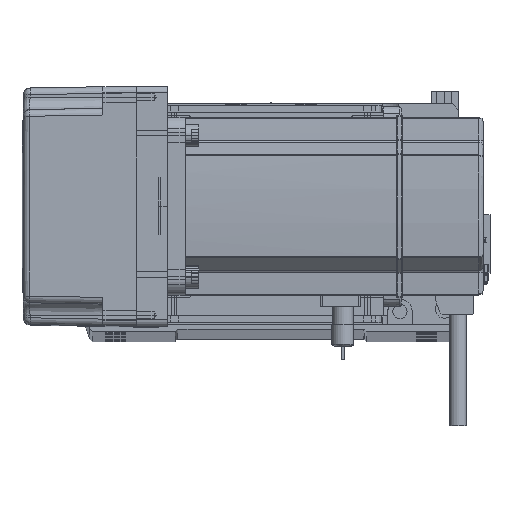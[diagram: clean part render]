
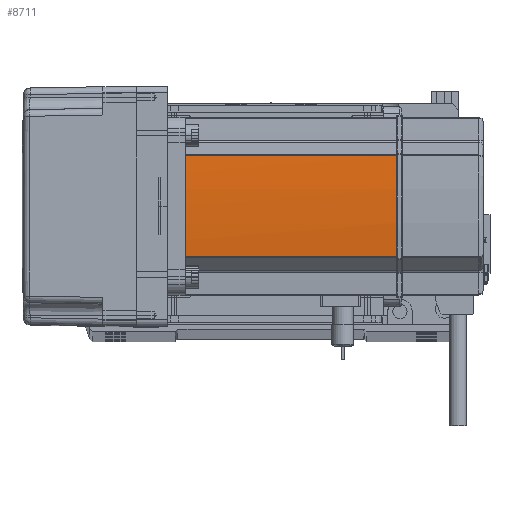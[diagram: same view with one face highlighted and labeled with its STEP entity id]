
A CAD part, top view. The second image highlights one B-rep face of the part: STEP entity #8711.
In plain terms, the highlighted cylindrical face has radius 270 mm (diameter 540 mm), a partial arc.
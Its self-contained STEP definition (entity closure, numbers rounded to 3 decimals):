
#567 = EDGE_CURVE ( 'NONE', #49985, #45974, #53830, .T. ) ;
#912 = EDGE_CURVE ( 'NONE', #49985, #52769, #51973, .T. ) ;
#4537 = CARTESIAN_POINT ( 'NONE',  ( 40., -0.042, 134. ) ) ;
#4609 = CARTESIAN_POINT ( 'NONE',  ( 39.042, 22.724, 134. ) ) ;
#6778 = LINE ( 'NONE', #58888, #54931 ) ;
#6780 = ORIENTED_EDGE ( 'NONE', *, *, #912, .F. ) ;
#7158 = DIRECTION ( 'NONE',  ( -1., 0., 0. ) ) ;
#8711 = ADVANCED_FACE ( 'NONE', ( #59301 ), #29687, .T. ) ;
#9315 = AXIS2_PLACEMENT_3D ( 'NONE', #60848, #21944, #61696 ) ;
#9437 = DIRECTION ( 'NONE',  ( 0., 0., -1. ) ) ;
#9740 = CARTESIAN_POINT ( 'NONE',  ( 39.042, 22.724, 58. ) ) ;
#9916 = CARTESIAN_POINT ( 'NONE',  ( 40., -0.127, 134. ) ) ;
#10578 = DIRECTION ( 'NONE',  ( 0., 0., 1. ) ) ;
#10794 = CARTESIAN_POINT ( 'NONE',  ( 39.042, 22.724, 39. ) ) ;
#12119 = EDGE_CURVE ( 'NONE', #45974, #49372, #6778, .T. ) ;
#12374 = DIRECTION ( 'NONE',  ( 0., 0., -1. ) ) ;
#13318 = EDGE_CURVE ( 'NONE', #48227, #52769, #30695, .T. ) ;
#19454 = CARTESIAN_POINT ( 'NONE',  ( 40., 0.042, 134. ) ) ;
#19656 = CARTESIAN_POINT ( 'NONE',  ( 40., -0.127, 134. ) ) ;
#20538 = CIRCLE ( 'NONE', #24945, 270. ) ;
#21526 = ORIENTED_EDGE ( 'NONE', *, *, #12119, .T. ) ;
#21944 = DIRECTION ( 'NONE',  ( 0., 0., -1. ) ) ;
#24260 = CARTESIAN_POINT ( 'NONE',  ( 39.042, -22.724, 39. ) ) ;
#24945 = AXIS2_PLACEMENT_3D ( 'NONE', #60116, #40338, #50742 ) ;
#25372 = VERTEX_POINT ( 'NONE', #10794 ) ;
#26848 = AXIS2_PLACEMENT_3D ( 'NONE', #38361, #38170, #33138 ) ;
#29687 = CYLINDRICAL_SURFACE ( 'NONE', #26848, 270. ) ;
#30695 = CIRCLE ( 'NONE', #9315, 270. ) ;
#31426 = AXIS2_PLACEMENT_3D ( 'NONE', #52707, #12374, #7158 ) ;
#31449 = ORIENTED_EDGE ( 'NONE', *, *, #36643, .F. ) ;
#33138 = DIRECTION ( 'NONE',  ( -1., 0., 0. ) ) ;
#34880 = VECTOR ( 'NONE', #10578, 1000. ) ;
#35341 = ORIENTED_EDGE ( 'NONE', *, *, #37013, .T. ) ;
#36643 = EDGE_CURVE ( 'NONE', #25372, #49372, #20538, .T. ) ;
#37013 = EDGE_CURVE ( 'NONE', #25372, #48227, #50409, .T. ) ;
#37497 = ORIENTED_EDGE ( 'NONE', *, *, #567, .T. ) ;
#38170 = DIRECTION ( 'NONE',  ( 0., 0., -1. ) ) ;
#38361 = CARTESIAN_POINT ( 'NONE',  ( -230., 0., 58. ) ) ;
#38981 = CARTESIAN_POINT ( 'NONE',  ( 40., 0.127, 134. ) ) ;
#40338 = DIRECTION ( 'NONE',  ( 0., 0., -1. ) ) ;
#45974 = VERTEX_POINT ( 'NONE', #56530 ) ;
#47311 = ORIENTED_EDGE ( 'NONE', *, *, #13318, .T. ) ;
#48227 = VERTEX_POINT ( 'NONE', #4609 ) ;
#49372 = VERTEX_POINT ( 'NONE', #24260 ) ;
#49985 = VERTEX_POINT ( 'NONE', #9916 ) ;
#50409 = LINE ( 'NONE', #9740, #34880 ) ;
#50742 = DIRECTION ( 'NONE',  ( -1., 0., 0. ) ) ;
#51973 = B_SPLINE_CURVE_WITH_KNOTS ( 'NONE', 3,
 ( #19656, #4537, #19454, #38981 ),
 .UNSPECIFIED., .F., .F.,
 ( 4, 4 ),
 ( 0., 1. ),
 .UNSPECIFIED. ) ;
#52707 = CARTESIAN_POINT ( 'NONE',  ( -230., 0., 134. ) ) ;
#52769 = VERTEX_POINT ( 'NONE', #59050 ) ;
#53830 = CIRCLE ( 'NONE', #31426, 270. ) ;
#54931 = VECTOR ( 'NONE', #9437, 1000. ) ;
#56530 = CARTESIAN_POINT ( 'NONE',  ( 39.042, -22.724, 134. ) ) ;
#58605 = EDGE_LOOP ( 'NONE', ( #21526, #31449, #35341, #47311, #6780, #37497 ) ) ;
#58888 = CARTESIAN_POINT ( 'NONE',  ( 39.042, -22.724, 58. ) ) ;
#59050 = CARTESIAN_POINT ( 'NONE',  ( 40., 0.127, 134. ) ) ;
#59301 = FACE_OUTER_BOUND ( 'NONE', #58605, .T. ) ;
#60116 = CARTESIAN_POINT ( 'NONE',  ( -230., 0., 39. ) ) ;
#60848 = CARTESIAN_POINT ( 'NONE',  ( -230., 0., 134. ) ) ;
#61696 = DIRECTION ( 'NONE',  ( -1., 0., 0. ) ) ;
